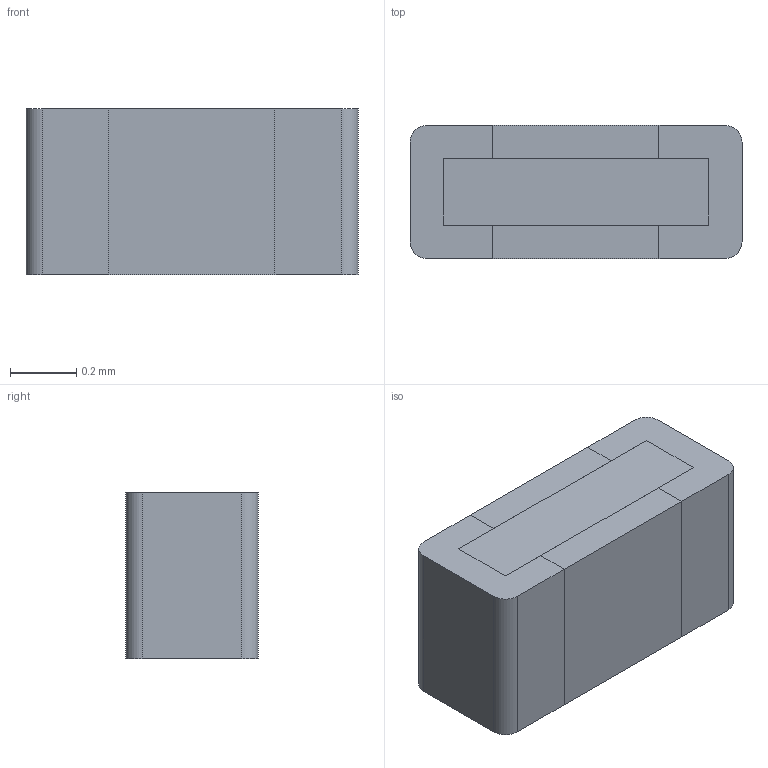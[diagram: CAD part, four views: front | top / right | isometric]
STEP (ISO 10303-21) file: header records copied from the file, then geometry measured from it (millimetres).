
FILE_DESCRIPTION (( 'STEP AP214' ), '1' );
FILE_NAME ( 'RESC1005X40.STEP', '2013-08-13T09:44:22', ( '' ), ( '' ), 'FPX Expert 2013', 'PCB Libraries', '' );
FILE_SCHEMA (( 'AUTOMOTIVE_DESIGN' ));
Length unit declared in the file: millimetre
Products named in the file (1): RESC1005X40
Bounding box: 1 x 0.4 x 0.5 mm (x, y, z)
Volume: 0.2 mm3; surface area: 4.6 mm2
Topology: 5 solids, 5 shells, 42 faces, 96 edges, 64 vertices
Faces by surface type: plane 38, cylinder 4
Entity records: 1351 total; most frequent: CARTESIAN_POINT 203, ORIENTED_EDGE 192, DIRECTION 190, EDGE_CURVE 96, VECTOR 88, LINE 88, VERTEX_POINT 64, AXIS2_PLACEMENT_3D 51
